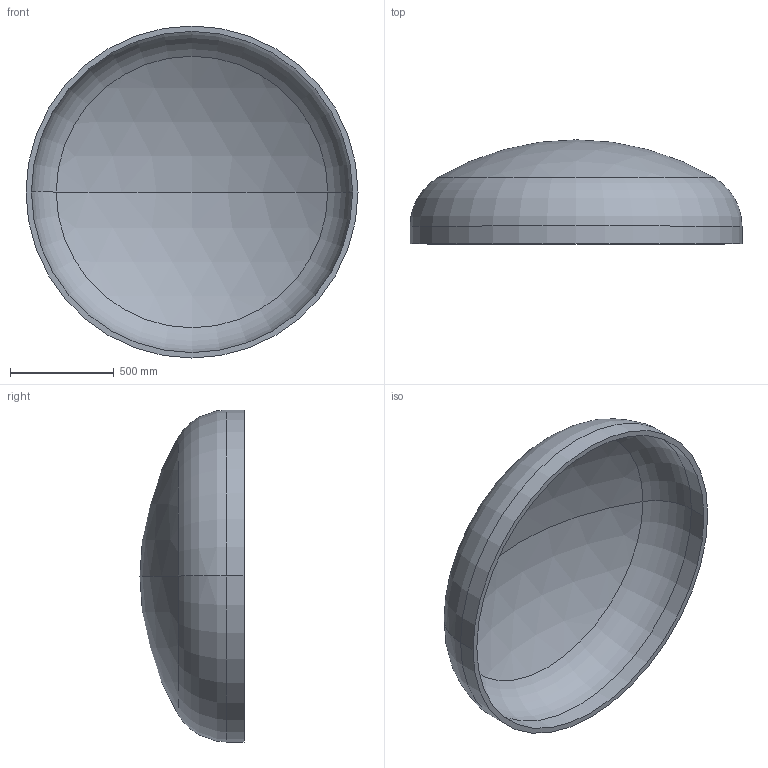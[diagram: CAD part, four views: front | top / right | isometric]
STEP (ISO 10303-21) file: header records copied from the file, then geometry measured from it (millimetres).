
FILE_DESCRIPTION (( 'STEP AP203' ), '1' );
FILE_NAME ('DIN 28013 Korbbogenform_-_Boden DIN 28013 - 1600 x 85 - I - s=26.step', '2016-07-01T11:10:25', ( '' ), ( '' ), 'SwSTEP 2.0', 'SolidWorks 2013', '' );
FILE_SCHEMA (( 'CONFIG_CONTROL_DESIGN' ));
Length unit declared in the file: millimetre
Products named in the file (1): DIN 28013 Korbbogenform_-_Boden DIN 28013 - 1600 x 85 - I - s=26
Bounding box: 1600 x 501.4 x 1600 mm (x, y, z)
Volume: 81714099.5 mm3; surface area: 6415680.2 mm2
Topology: 1 solids, 1 shells, 13 faces, 24 edges, 14 vertices
Faces by surface type: torus 4, cylinder 4, sphere 4, plane 1
Entity records: 407 total; most frequent: DIRECTION 72, CARTESIAN_POINT 52, ORIENTED_EDGE 48, AXIS2_PLACEMENT_3D 34, EDGE_CURVE 24, CIRCLE 20, VERTEX_POINT 14, EDGE_LOOP 14
